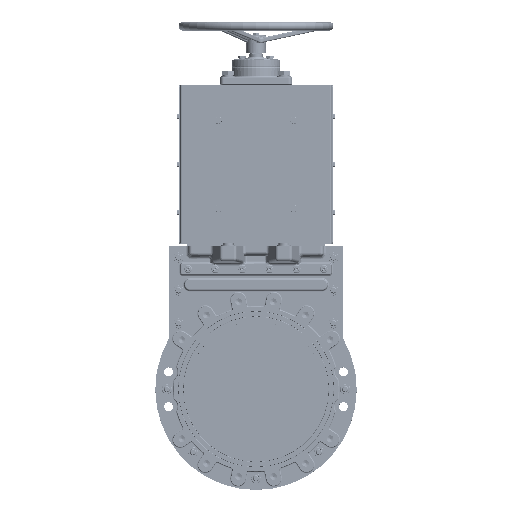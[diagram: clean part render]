
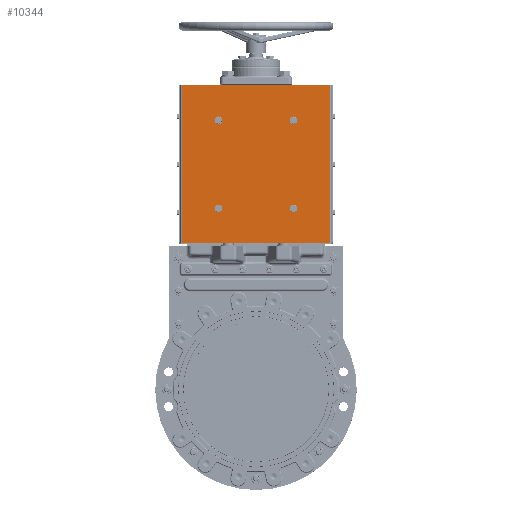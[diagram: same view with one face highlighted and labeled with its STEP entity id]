
A CAD part, top view. The second image highlights one B-rep face of the part: STEP entity #10344.
In plain terms, the highlighted planar face has unit normal (0, 0, 1).
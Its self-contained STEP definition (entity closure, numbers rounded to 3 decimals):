
#4728=PLANE('',#57353);
#10344=ADVANCED_FACE('',(#13136,#13137,#13138,#13139,#13140),#4728,.F.);
#13136=FACE_BOUND('',#17586,.T.);
#13137=FACE_BOUND('',#17587,.T.);
#13138=FACE_BOUND('',#17588,.T.);
#13139=FACE_BOUND('',#17589,.T.);
#13140=FACE_BOUND('',#17590,.T.);
#17586=EDGE_LOOP('',(#33665));
#17587=EDGE_LOOP('',(#33666));
#17588=EDGE_LOOP('',(#33667,#33668,#33669,#33670));
#17589=EDGE_LOOP('',(#33671));
#17590=EDGE_LOOP('',(#33672));
#20131=CIRCLE('',#56851,10.);
#20168=CIRCLE('',#56951,10.);
#20333=CIRCLE('',#57328,10.);
#20341=CIRCLE('',#57352,10.);
#33665=ORIENTED_EDGE('',*,*,#45975,.F.);
#33666=ORIENTED_EDGE('',*,*,#46088,.F.);
#33667=ORIENTED_EDGE('',*,*,#46499,.T.);
#33668=ORIENTED_EDGE('',*,*,#46500,.F.);
#33669=ORIENTED_EDGE('',*,*,#46501,.F.);
#33670=ORIENTED_EDGE('',*,*,#46502,.F.);
#33671=ORIENTED_EDGE('',*,*,#46503,.T.);
#33672=ORIENTED_EDGE('',*,*,#46467,.T.);
#39061=VERTEX_POINT('',#100504);
#39138=VERTEX_POINT('',#100889);
#39413=VERTEX_POINT('',#102055);
#39433=VERTEX_POINT('',#102159);
#39434=VERTEX_POINT('',#102160);
#39435=VERTEX_POINT('',#102162);
#39436=VERTEX_POINT('',#102164);
#39437=VERTEX_POINT('',#102167);
#45975=EDGE_CURVE('',#39061,#39061,#20131,.T.);
#46088=EDGE_CURVE('',#39138,#39138,#20168,.T.);
#46467=EDGE_CURVE('',#39413,#39413,#20333,.T.);
#46499=EDGE_CURVE('',#39433,#39434,#49876,.T.);
#46500=EDGE_CURVE('',#39435,#39434,#49877,.T.);
#46501=EDGE_CURVE('',#39436,#39435,#49878,.T.);
#46502=EDGE_CURVE('',#39433,#39436,#49879,.T.);
#46503=EDGE_CURVE('',#39437,#39437,#20341,.T.);
#49876=LINE('',#102158,#52874);
#49877=LINE('',#102161,#52875);
#49878=LINE('',#102163,#52876);
#49879=LINE('',#102165,#52877);
#52874=VECTOR('',#69694,1.);
#52875=VECTOR('',#69695,1.);
#52876=VECTOR('',#69696,1.);
#52877=VECTOR('',#69697,1.);
#56851=AXIS2_PLACEMENT_3D('',#100503,#68510,#68511);
#56951=AXIS2_PLACEMENT_3D('',#100888,#68750,#68751);
#57328=AXIS2_PLACEMENT_3D('',#102054,#69634,#69635);
#57352=AXIS2_PLACEMENT_3D('',#102166,#69698,#69699);
#57353=AXIS2_PLACEMENT_3D('',#102168,#69700,#69701);
#68510=DIRECTION('',(0.,0.,1.));
#68511=DIRECTION('',(1.,0.,0.));
#68750=DIRECTION('',(0.,0.,1.));
#68751=DIRECTION('',(1.,0.,0.));
#69634=DIRECTION('',(0.,0.,-1.));
#69635=DIRECTION('',(-1.,0.,0.));
#69694=DIRECTION('',(-1.,0.,0.));
#69695=DIRECTION('',(0.,1.,0.));
#69696=DIRECTION('',(-1.,0.,0.));
#69697=DIRECTION('',(0.,-1.,0.));
#69698=DIRECTION('',(0.,0.,-1.));
#69699=DIRECTION('',(-1.,0.,0.));
#69700=DIRECTION('',(0.,0.,-1.));
#69701=DIRECTION('',(1.,0.,0.));
#100503=CARTESIAN_POINT('',(97.,466.,92.));
#100504=CARTESIAN_POINT('',(107.,466.,92.));
#100888=CARTESIAN_POINT('',(97.,694.,92.));
#100889=CARTESIAN_POINT('',(107.,694.,92.));
#102054=CARTESIAN_POINT('',(-97.,466.,92.));
#102055=CARTESIAN_POINT('',(-107.,466.,92.));
#102158=CARTESIAN_POINT('',(197.5,784.,92.));
#102159=CARTESIAN_POINT('',(191.25,784.,92.));
#102160=CARTESIAN_POINT('',(-191.25,784.,92.));
#102161=CARTESIAN_POINT('',(-191.25,784.,92.));
#102162=CARTESIAN_POINT('',(-191.25,376.,92.));
#102163=CARTESIAN_POINT('',(197.5,376.,92.));
#102164=CARTESIAN_POINT('',(191.25,376.,92.));
#102165=CARTESIAN_POINT('',(191.25,376.,92.));
#102166=CARTESIAN_POINT('',(-97.,694.,92.));
#102167=CARTESIAN_POINT('',(-107.,694.,92.));
#102168=CARTESIAN_POINT('',(197.5,784.,92.));
